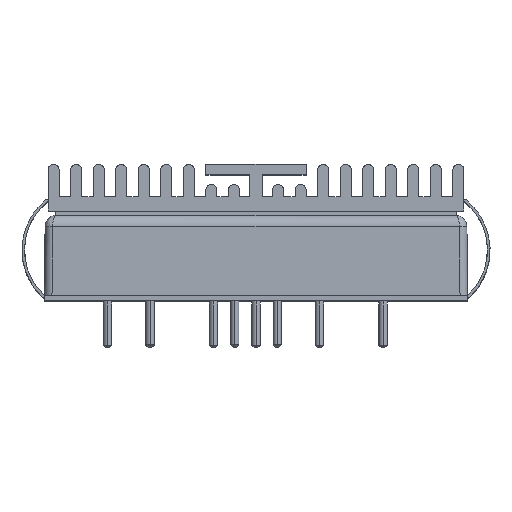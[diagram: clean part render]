
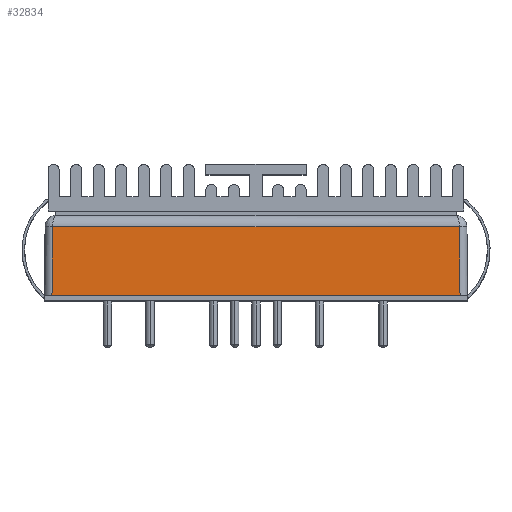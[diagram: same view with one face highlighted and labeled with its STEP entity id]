
A CAD part, top view. The second image highlights one B-rep face of the part: STEP entity #32834.
In plain terms, the highlighted planar face has unit normal (0, 0.009, 1).
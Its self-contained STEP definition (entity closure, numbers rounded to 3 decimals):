
#1272 = DIRECTION ( 'NONE',  ( -0.009, 1., -0.009 ) ) ;
#5903 = CARTESIAN_POINT ( 'NONE',  ( 24.45, 0.6, 25.35 ) ) ;
#6605 = LINE ( 'NONE', #57520, #33878 ) ;
#12654 = CARTESIAN_POINT ( 'NONE',  ( 25.35, 0.6, 25.35 ) ) ;
#13484 = ORIENTED_EDGE ( 'NONE', *, *, #52922, .T. ) ;
#16721 = CARTESIAN_POINT ( 'NONE',  ( 25.4, 0.6, 25.35 ) ) ;
#18171 = DIRECTION ( 'NONE',  ( 0., -1., 0.009 ) ) ;
#19068 = CARTESIAN_POINT ( 'NONE',  ( -24.378, 8.812, 25.278 ) ) ;
#22207 = DIRECTION ( 'NONE',  ( -1., 0., 0. ) ) ;
#24885 = DIRECTION ( 'NONE',  ( -0.009, -1., 0.009 ) ) ;
#30927 = AXIS2_PLACEMENT_3D ( 'NONE', #12654, #50686, #18171 ) ;
#32027 = DIRECTION ( 'NONE',  ( -1., 0., 0. ) ) ;
#32834 = ADVANCED_FACE ( 'NONE', ( #59435 ), #39567, .T. ) ;
#33878 = VECTOR ( 'NONE', #24885, 1000. ) ;
#33955 = CARTESIAN_POINT ( 'NONE',  ( 24.45, 0.6, 25.35 ) ) ;
#34018 = EDGE_CURVE ( 'NONE', #52593, #34546, #57358, .T. ) ;
#34063 = VECTOR ( 'NONE', #32027, 1000. ) ;
#34179 = ORIENTED_EDGE ( 'NONE', *, *, #54366, .T. ) ;
#34506 = EDGE_CURVE ( 'NONE', #52593, #68655, #61420, .T. ) ;
#34546 = VERTEX_POINT ( 'NONE', #44295 ) ;
#34747 = VERTEX_POINT ( 'NONE', #19068 ) ;
#35752 = LINE ( 'NONE', #64285, #34063 ) ;
#39567 = PLANE ( 'NONE',  #30927 ) ;
#44295 = CARTESIAN_POINT ( 'NONE',  ( 24.378, 8.812, 25.278 ) ) ;
#45770 = EDGE_LOOP ( 'NONE', ( #50163, #58274, #34179, #13484 ) ) ;
#48868 = VECTOR ( 'NONE', #22207, 1000. ) ;
#50163 = ORIENTED_EDGE ( 'NONE', *, *, #34506, .F. ) ;
#50686 = DIRECTION ( 'NONE',  ( 0., 0.009, 1. ) ) ;
#52593 = VERTEX_POINT ( 'NONE', #5903 ) ;
#52922 = EDGE_CURVE ( 'NONE', #34747, #68655, #6605, .T. ) ;
#54366 = EDGE_CURVE ( 'NONE', #34546, #34747, #35752, .T. ) ;
#57358 = LINE ( 'NONE', #33955, #69914 ) ;
#57520 = CARTESIAN_POINT ( 'NONE',  ( -24.378, 8.812, 25.278 ) ) ;
#58274 = ORIENTED_EDGE ( 'NONE', *, *, #34018, .T. ) ;
#59435 = FACE_OUTER_BOUND ( 'NONE', #45770, .T. ) ;
#61420 = LINE ( 'NONE', #16721, #48868 ) ;
#64285 = CARTESIAN_POINT ( 'NONE',  ( 25.35, 8.812, 25.278 ) ) ;
#68655 = VERTEX_POINT ( 'NONE', #69388 ) ;
#69388 = CARTESIAN_POINT ( 'NONE',  ( -24.45, 0.6, 25.35 ) ) ;
#69914 = VECTOR ( 'NONE', #1272, 1000. ) ;
